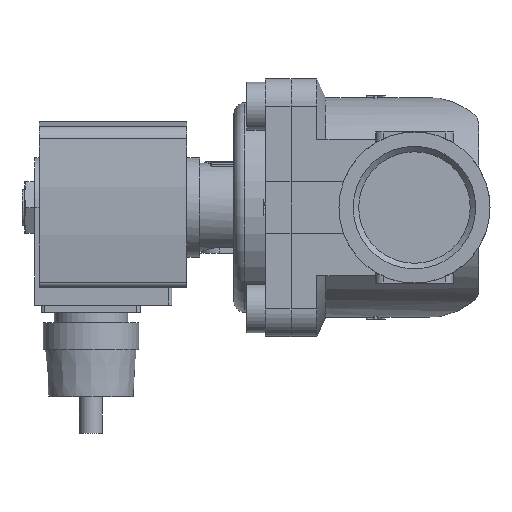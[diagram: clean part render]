
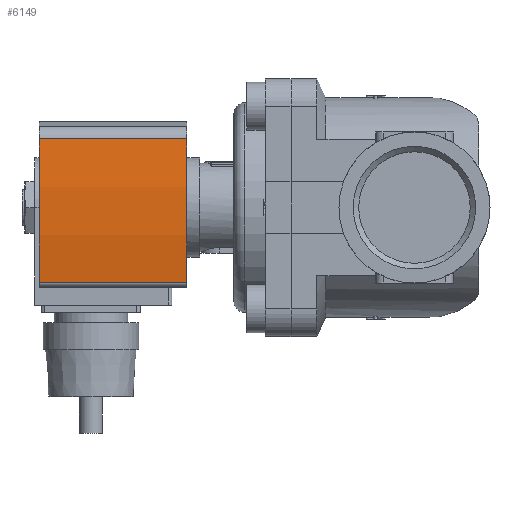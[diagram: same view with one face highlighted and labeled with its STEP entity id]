
A CAD part, left-side view. The second image highlights one B-rep face of the part: STEP entity #6149.
In plain terms, the highlighted cylindrical face has radius 130 mm (diameter 260 mm), a partial arc.
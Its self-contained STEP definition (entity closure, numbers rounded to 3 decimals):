
#220=CYLINDRICAL_SURFACE('',#6667,130.);
#658=LINE('',#9895,#1116);
#659=LINE('',#9899,#1117);
#1116=VECTOR('',#8083,1000.);
#1117=VECTOR('',#8088,1000.);
#2486=ORIENTED_EDGE('',*,*,#3357,.T.);
#2487=ORIENTED_EDGE('',*,*,#3358,.F.);
#2488=ORIENTED_EDGE('',*,*,#3346,.F.);
#2489=ORIENTED_EDGE('',*,*,#3356,.T.);
#3346=EDGE_CURVE('',#3892,#3893,#4117,.T.);
#3356=EDGE_CURVE('',#3892,#3899,#658,.T.);
#3357=EDGE_CURVE('',#3899,#3900,#4125,.T.);
#3358=EDGE_CURVE('',#3893,#3900,#659,.T.);
#3892=VERTEX_POINT('',#9875);
#3893=VERTEX_POINT('',#9877);
#3899=VERTEX_POINT('',#9894);
#3900=VERTEX_POINT('',#9898);
#4117=CIRCLE('',#6657,130.);
#4125=CIRCLE('',#6668,130.);
#4431=EDGE_LOOP('',(#2486,#2487,#2488,#2489));
#4763=FACE_BOUND('',#4431,.T.);
#6149=ADVANCED_FACE('',(#4763),#220,.T.);
#6657=AXIS2_PLACEMENT_3D('',#9876,#8061,#8062);
#6667=AXIS2_PLACEMENT_3D('',#9896,#8084,#8085);
#6668=AXIS2_PLACEMENT_3D('',#9897,#8086,#8087);
#8061=DIRECTION('',(0.,1.,0.));
#8062=DIRECTION('',(1.,0.,0.));
#8083=DIRECTION('',(0.,-1.,0.));
#8084=DIRECTION('',(0.,-1.,0.));
#8085=DIRECTION('',(0.,0.,-1.));
#8086=DIRECTION('',(0.,1.,0.));
#8087=DIRECTION('',(1.,0.,0.));
#8088=DIRECTION('',(0.,-1.,0.));
#9875=CARTESIAN_POINT('',(-20.382,14.,18.392));
#9876=CARTESIAN_POINT('',(0.,14.,-110.));
#9877=CARTESIAN_POINT('',(18.639,14.,18.657));
#9894=CARTESIAN_POINT('',(-20.382,-26.,18.392));
#9895=CARTESIAN_POINT('',(-20.382,14.,18.392));
#9896=CARTESIAN_POINT('',(0.,14.,-110.));
#9897=CARTESIAN_POINT('',(0.,-26.,-110.));
#9898=CARTESIAN_POINT('',(18.639,-26.,18.657));
#9899=CARTESIAN_POINT('',(18.639,14.,18.657));
